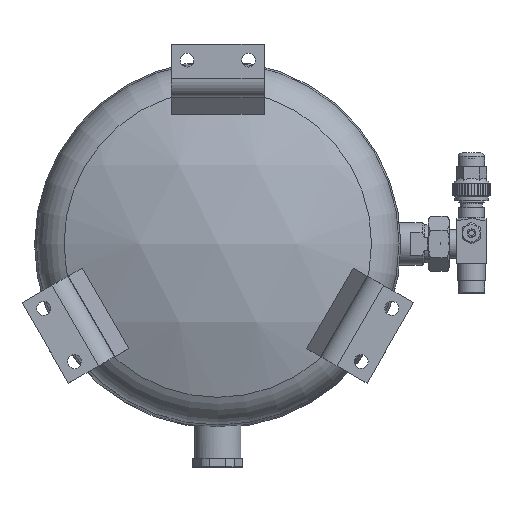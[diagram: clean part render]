
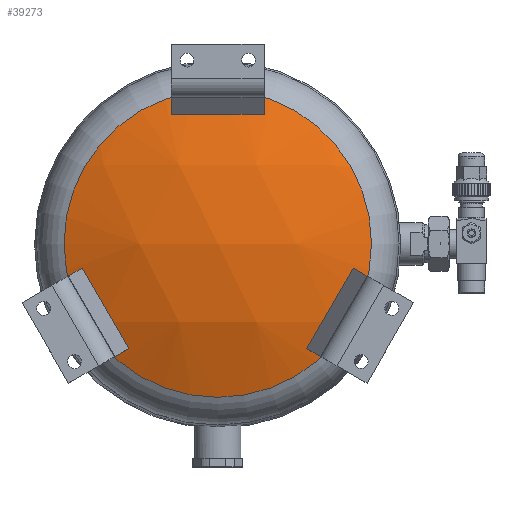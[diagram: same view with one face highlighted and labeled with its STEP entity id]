
A CAD part, top view. The second image highlights one B-rep face of the part: STEP entity #39273.
In plain terms, the highlighted spherical face has radius 281 mm.
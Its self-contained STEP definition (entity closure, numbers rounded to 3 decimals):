
#8560=SPHERICAL_SURFACE('',#42601,281.);
#11019=FACE_OUTER_BOUND('',#13333,.T.);
#13333=EDGE_LOOP('',(#35019));
#14835=CIRCLE('',#42599,115.74);
#19179=VERTEX_POINT('',#79795);
#24580=EDGE_CURVE('',#19179,#19179,#14835,.T.);
#35019=ORIENTED_EDGE('',*,*,#24580,.T.);
#39273=ADVANCED_FACE('',(#11019),#8560,.T.);
#42599=AXIS2_PLACEMENT_3D('',#79796,#51133,#51134);
#42601=AXIS2_PLACEMENT_3D('',#79798,#51137,#51138);
#51133=DIRECTION('center_axis',(0.,0.,1.));
#51134=DIRECTION('ref_axis',(-1.,0.,0.));
#51137=DIRECTION('center_axis',(0.,-1.,0.));
#51138=DIRECTION('ref_axis',(1.,0.,0.));
#79795=CARTESIAN_POINT('',(0.,115.74,571.329));
#79796=CARTESIAN_POINT('Origin',(0.,0.,
571.329));
#79798=CARTESIAN_POINT('Origin',(0.,0.,
315.272));
